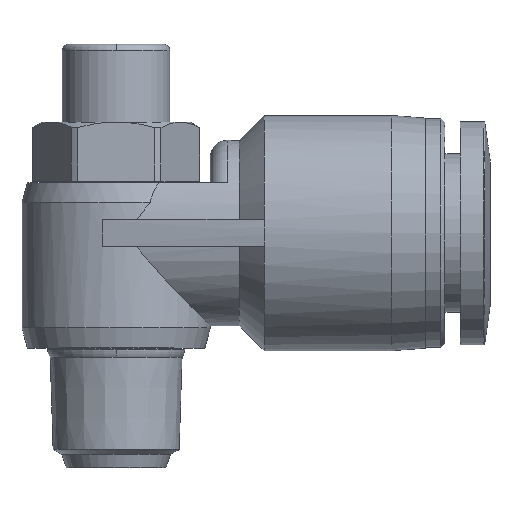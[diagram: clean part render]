
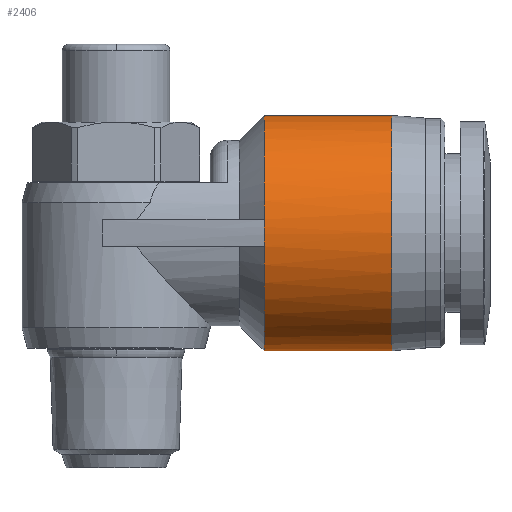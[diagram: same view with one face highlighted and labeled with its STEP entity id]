
A CAD part, top view. The second image highlights one B-rep face of the part: STEP entity #2406.
In plain terms, the highlighted cylindrical face has radius 8.75 mm (diameter 17.5 mm), a partial arc.
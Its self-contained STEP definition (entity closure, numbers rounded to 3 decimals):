
#19 = CIRCLE ( 'NONE', #1511, 8.75 ) ;
#23 = ORIENTED_EDGE ( 'NONE', *, *, #815, .T. ) ;
#119 = CARTESIAN_POINT ( 'NONE',  ( 20.5, 25.5, 0. ) ) ;
#128 = DIRECTION ( 'NONE',  ( 0., -1., 0. ) ) ;
#183 = CARTESIAN_POINT ( 'NONE',  ( 11., 17.75, 8.693 ) ) ;
#280 = VECTOR ( 'NONE', #2343, 1000. ) ;
#283 = ORIENTED_EDGE ( 'NONE', *, *, #731, .F. ) ;
#364 = LINE ( 'NONE', #2975, #280 ) ;
#449 = CYLINDRICAL_SURFACE ( 'NONE', #1700, 8.75 ) ;
#476 = VERTEX_POINT ( 'NONE', #3758 ) ;
#498 = AXIS2_PLACEMENT_3D ( 'NONE', #3509, #1250, #893 ) ;
#588 = CARTESIAN_POINT ( 'NONE',  ( 11., 16.75, 0. ) ) ;
#719 = EDGE_LOOP ( 'NONE', ( #2684, #23, #3897, #3824, #3288, #283 ) ) ;
#731 = EDGE_CURVE ( 'NONE', #3199, #1142, #364, .T. ) ;
#765 = FACE_OUTER_BOUND ( 'NONE', #719, .T. ) ;
#815 = EDGE_CURVE ( 'NONE', #2179, #1686, #3434, .T. ) ;
#893 = DIRECTION ( 'NONE',  ( 0., -1., 0. ) ) ;
#910 = CARTESIAN_POINT ( 'NONE',  ( 20.5, 8., 0. ) ) ;
#1041 = EDGE_CURVE ( 'NONE', #1142, #1996, #19, .T. ) ;
#1142 = VERTEX_POINT ( 'NONE', #2751 ) ;
#1250 = DIRECTION ( 'NONE',  ( -1., 0., 0. ) ) ;
#1362 = EDGE_CURVE ( 'NONE', #3199, #2179, #1643, .T. ) ;
#1511 = AXIS2_PLACEMENT_3D ( 'NONE', #588, #2878, #2601 ) ;
#1643 = CIRCLE ( 'NONE', #498, 8.75 ) ;
#1686 = VERTEX_POINT ( 'NONE', #2137 ) ;
#1700 = AXIS2_PLACEMENT_3D ( 'NONE', #1735, #3040, #128 ) ;
#1735 = CARTESIAN_POINT ( 'NONE',  ( 15.75, 16.75, 0. ) ) ;
#1996 = VERTEX_POINT ( 'NONE', #2890 ) ;
#2137 = CARTESIAN_POINT ( 'NONE',  ( 11., 25.5, 0. ) ) ;
#2179 = VERTEX_POINT ( 'NONE', #119 ) ;
#2223 = DIRECTION ( 'NONE',  ( -1., 0., 0. ) ) ;
#2343 = DIRECTION ( 'NONE',  ( -1., 0., 0. ) ) ;
#2406 = ADVANCED_FACE ( 'NONE', ( #765 ), #449, .T. ) ;
#2455 = VECTOR ( 'NONE', #2762, 1000. ) ;
#2538 = DIRECTION ( 'NONE',  ( 0., -1., 0. ) ) ;
#2568 = CARTESIAN_POINT ( 'NONE',  ( 11., 17.086, 8.769 ) ) ;
#2601 = DIRECTION ( 'NONE',  ( 0., -1., 0. ) ) ;
#2684 = ORIENTED_EDGE ( 'NONE', *, *, #1362, .T. ) ;
#2716 = CARTESIAN_POINT ( 'NONE',  ( 15.75, 25.5, 0. ) ) ;
#2751 = CARTESIAN_POINT ( 'NONE',  ( 11., 8., 0. ) ) ;
#2762 = DIRECTION ( 'NONE',  ( -1., 0., 0. ) ) ;
#2802 = CARTESIAN_POINT ( 'NONE',  ( 11., 15.75, 8.693 ) ) ;
#2878 = DIRECTION ( 'NONE',  ( -1., 0., 0. ) ) ;
#2890 = CARTESIAN_POINT ( 'NONE',  ( 11., 15.75, 8.693 ) ) ;
#2930 = EDGE_CURVE ( 'NONE', #476, #1686, #3248, .T. ) ;
#2975 = CARTESIAN_POINT ( 'NONE',  ( 15.75, 8., 0. ) ) ;
#3040 = DIRECTION ( 'NONE',  ( -1., 0., 0. ) ) ;
#3199 = VERTEX_POINT ( 'NONE', #910 ) ;
#3248 = CIRCLE ( 'NONE', #4149, 8.75 ) ;
#3263 = B_SPLINE_CURVE_WITH_KNOTS ( 'NONE', 3,
 ( #2802, #3712, #2568, #183 ),
 .UNSPECIFIED., .F., .F.,
 ( 4, 4 ),
 ( 0., 1. ),
 .UNSPECIFIED. ) ;
#3288 = ORIENTED_EDGE ( 'NONE', *, *, #1041, .F. ) ;
#3434 = LINE ( 'NONE', #2716, #2455 ) ;
#3509 = CARTESIAN_POINT ( 'NONE',  ( 20.5, 16.75, 0. ) ) ;
#3532 = CARTESIAN_POINT ( 'NONE',  ( 11., 16.75, 0. ) ) ;
#3712 = CARTESIAN_POINT ( 'NONE',  ( 11., 16.414, 8.769 ) ) ;
#3729 = EDGE_CURVE ( 'NONE', #1996, #476, #3263, .T. ) ;
#3758 = CARTESIAN_POINT ( 'NONE',  ( 11., 17.75, 8.693 ) ) ;
#3824 = ORIENTED_EDGE ( 'NONE', *, *, #3729, .F. ) ;
#3897 = ORIENTED_EDGE ( 'NONE', *, *, #2930, .F. ) ;
#4149 = AXIS2_PLACEMENT_3D ( 'NONE', #3532, #2223, #2538 ) ;
